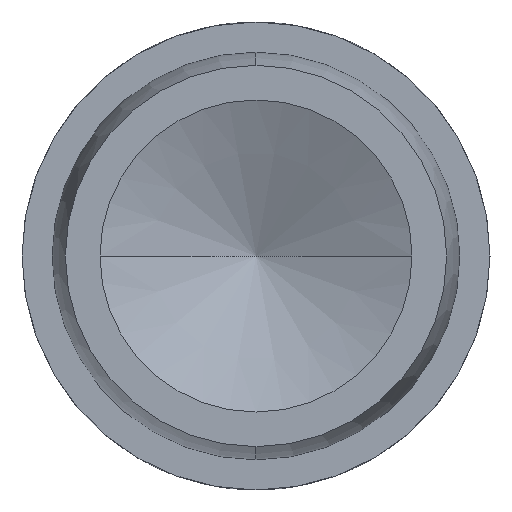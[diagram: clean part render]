
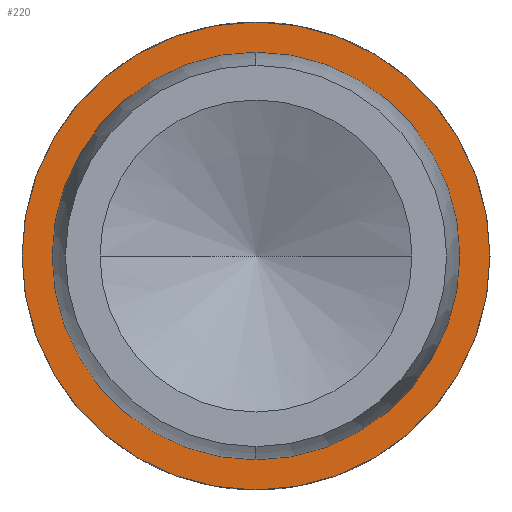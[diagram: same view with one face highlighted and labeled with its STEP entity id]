
A CAD part, left-side view. The second image highlights one B-rep face of the part: STEP entity #220.
In plain terms, the highlighted planar face has unit normal (-1, 0, 0).
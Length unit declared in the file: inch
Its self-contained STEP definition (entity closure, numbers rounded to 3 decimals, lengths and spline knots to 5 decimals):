
#6 = DIRECTION ( 'NONE',  ( -1., 0., 0. ) ) ;
#58 = AXIS2_PLACEMENT_3D ( 'NONE', #567, #512, #511 ) ;
#63 = EDGE_CURVE ( 'NONE', #77, #464, #193, .T. ) ;
#77 = VERTEX_POINT ( 'NONE', #197 ) ;
#103 = VERTEX_POINT ( 'NONE', #184 ) ;
#105 = EDGE_CURVE ( 'NONE', #272, #103, #305, .T. ) ;
#138 = EDGE_CURVE ( 'NONE', #464, #77, #639, .T. ) ;
#139 = EDGE_CURVE ( 'NONE', #103, #272, #637, .T. ) ;
#150 = ORIENTED_EDGE ( 'NONE', *, *, #139, .F. ) ;
#184 = CARTESIAN_POINT ( 'NONE',  ( -0.50185, 1.41142, -2.67731 ) ) ;
#193 = CIRCLE ( 'NONE', #58, 0.5625 ) ;
#197 = CARTESIAN_POINT ( 'NONE',  ( -0.50185, 1.41142, -1.62481 ) ) ;
#220 = ADVANCED_FACE ( 'NONE', ( #411, #506 ), #344, .T. ) ;
#272 = VERTEX_POINT ( 'NONE', #310 ) ;
#274 = ORIENTED_EDGE ( 'NONE', *, *, #138, .T. ) ;
#301 = CARTESIAN_POINT ( 'NONE',  ( -0.50185, 1.41142, -2.74981 ) ) ;
#305 = CIRCLE ( 'NONE', #649, 0.49 ) ;
#310 = CARTESIAN_POINT ( 'NONE',  ( -0.50185, 1.41142, -1.69731 ) ) ;
#321 = EDGE_LOOP ( 'NONE', ( #696, #150 ) ) ;
#343 = DIRECTION ( 'NONE',  ( 0., 0., 1. ) ) ;
#344 = PLANE ( 'NONE',  #725 ) ;
#346 = CARTESIAN_POINT ( 'NONE',  ( -0.50185, 1.41142, -2.67731 ) ) ;
#347 = DIRECTION ( 'NONE',  ( -1., 0., 0. ) ) ;
#411 = FACE_BOUND ( 'NONE', #321, .T. ) ;
#421 = EDGE_LOOP ( 'NONE', ( #664, #274 ) ) ;
#431 = DIRECTION ( 'NONE',  ( 0., 0., 1. ) ) ;
#432 = DIRECTION ( 'NONE',  ( -1., 0., 0. ) ) ;
#434 = CARTESIAN_POINT ( 'NONE',  ( -0.50185, 1.41142, -2.18731 ) ) ;
#435 = DIRECTION ( 'NONE',  ( 0., 0., 1. ) ) ;
#436 = DIRECTION ( 'NONE',  ( -1., 0., 0. ) ) ;
#437 = CARTESIAN_POINT ( 'NONE',  ( -0.50185, 1.41142, -2.18731 ) ) ;
#464 = VERTEX_POINT ( 'NONE', #301 ) ;
#506 = FACE_OUTER_BOUND ( 'NONE', #421, .T. ) ;
#511 = DIRECTION ( 'NONE',  ( 0., 0., 1. ) ) ;
#512 = DIRECTION ( 'NONE',  ( -1., 0., 0. ) ) ;
#567 = CARTESIAN_POINT ( 'NONE',  ( -0.50185, 1.41142, -2.18731 ) ) ;
#579 = DIRECTION ( 'NONE',  ( 0., 0., 1. ) ) ;
#580 = CARTESIAN_POINT ( 'NONE',  ( -0.50185, 1.41142, -2.18731 ) ) ;
#637 = CIRCLE ( 'NONE', #747, 0.49 ) ;
#639 = CIRCLE ( 'NONE', #749, 0.5625 ) ;
#649 = AXIS2_PLACEMENT_3D ( 'NONE', #580, #6, #579 ) ;
#664 = ORIENTED_EDGE ( 'NONE', *, *, #63, .T. ) ;
#696 = ORIENTED_EDGE ( 'NONE', *, *, #105, .F. ) ;
#725 = AXIS2_PLACEMENT_3D ( 'NONE', #346, #347, #343 ) ;
#747 = AXIS2_PLACEMENT_3D ( 'NONE', #434, #432, #431 ) ;
#749 = AXIS2_PLACEMENT_3D ( 'NONE', #437, #436, #435 ) ;
